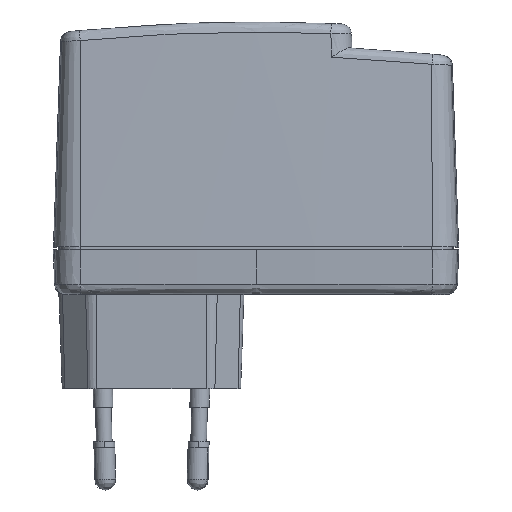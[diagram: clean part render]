
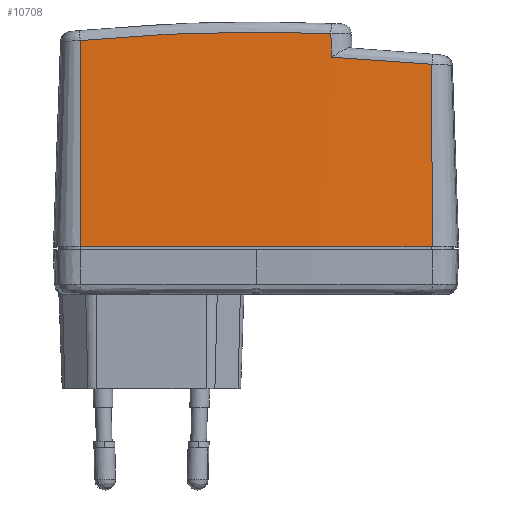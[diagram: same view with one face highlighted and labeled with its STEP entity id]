
A CAD part, top view. The second image highlights one B-rep face of the part: STEP entity #10708.
In plain terms, the highlighted conical face has half-angle 2 degrees and reference radius 1132.74 mm.
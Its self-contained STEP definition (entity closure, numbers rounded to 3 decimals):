
#135 = B_SPLINE_CURVE_WITH_KNOTS ( 'NONE', 3,
 ( #11519, #1693, #8661, #2425 ),
 .UNSPECIFIED., .F., .F.,
 ( 4, 4 ),
 ( 0., 1. ),
 .UNSPECIFIED. ) ;
#694 = DIRECTION ( 'NONE',  ( 0.001, -0.999, 0.035 ) ) ;
#872 = CARTESIAN_POINT ( 'NONE',  ( 33.616, 34.923, 16.281 ) ) ;
#1139 = VECTOR ( 'NONE', #7581, 1000. ) ;
#1210 = EDGE_CURVE ( 'NONE', #10408, #12705, #5740, .T. ) ;
#1338 = VECTOR ( 'NONE', #694, 1000. ) ;
#1452 = CONICAL_SURFACE ( 'NONE', #8878, 1132.735, 0.035 ) ;
#1693 = CARTESIAN_POINT ( 'NONE',  ( 27.241, 35.549, 16.449 ) ) ;
#1721 = CARTESIAN_POINT ( 'NONE',  ( 33.652, 0., 17.5 ) ) ;
#1848 = EDGE_CURVE ( 'NONE', #7943, #5614, #9613, .T. ) ;
#2425 = CARTESIAN_POINT ( 'NONE',  ( 14.454, 36.266, 16.641 ) ) ;
#3015 = ORIENTED_EDGE ( 'NONE', *, *, #1210, .F. ) ;
#3669 = CARTESIAN_POINT ( 'NONE',  ( 14.296, 40.776, 16.486 ) ) ;
#3963 = CARTESIAN_POINT ( 'NONE',  ( -33.611, 39.445, 16.123 ) ) ;
#4095 = CARTESIAN_POINT ( 'NONE',  ( 0., 41.07, 16.566 ) ) ;
#4700 = ORIENTED_EDGE ( 'NONE', *, *, #9474, .T. ) ;
#4976 = CARTESIAN_POINT ( 'NONE',  ( 14.296, 40.776, 16.486 ) ) ;
#5168 = CARTESIAN_POINT ( 'NONE',  ( 14.454, 36.266, 16.641 ) ) ;
#5374 = ORIENTED_EDGE ( 'NONE', *, *, #6502, .T. ) ;
#5556 = EDGE_LOOP ( 'NONE', ( #4700, #12411, #5374, #5896, #5945, #9532, #3015 ) ) ;
#5614 = VERTEX_POINT ( 'NONE', #8344 ) ;
#5740 = LINE ( 'NONE', #10768, #1338 ) ;
#5796 = EDGE_CURVE ( 'NONE', #5614, #12705, #12611, .T. ) ;
#5896 = ORIENTED_EDGE ( 'NONE', *, *, #10690, .T. ) ;
#5945 = ORIENTED_EDGE ( 'NONE', *, *, #1848, .T. ) ;
#6074 = CARTESIAN_POINT ( 'NONE',  ( -11.229, 41.07, 16.566 ) ) ;
#6169 = CARTESIAN_POINT ( 'NONE',  ( 4.767, 41.07, 16.566 ) ) ;
#6502 = EDGE_CURVE ( 'NONE', #11270, #8301, #7196, .T. ) ;
#6607 = B_SPLINE_CURVE_WITH_KNOTS ( 'NONE', 3,
 ( #4095, #6074, #13106, #3963 ),
 .UNSPECIFIED., .F., .F.,
 ( 4, 4 ),
 ( 0., 1. ),
 .UNSPECIFIED. ) ;
#6619 = CARTESIAN_POINT ( 'NONE',  ( 0., 41.07, 16.566 ) ) ;
#7027 = DIRECTION ( 'NONE',  ( 0., -1., 0. ) ) ;
#7135 = EDGE_CURVE ( 'NONE', #7695, #11270, #11741, .T. ) ;
#7196 = B_SPLINE_CURVE_WITH_KNOTS ( 'NONE', 3,
 ( #4976, #12064, #6169, #12197 ),
 .UNSPECIFIED., .F., .F.,
 ( 4, 4 ),
 ( 0., 1. ),
 .UNSPECIFIED. ) ;
#7336 = CARTESIAN_POINT ( 'NONE',  ( 0., 0., -1114.735 ) ) ;
#7520 = DIRECTION ( 'NONE',  ( 0., 0., -1. ) ) ;
#7581 = DIRECTION ( 'NONE',  ( -0.001, -0.999, 0.035 ) ) ;
#7604 = CARTESIAN_POINT ( 'NONE',  ( 14.401, 37.769, 16.589 ) ) ;
#7695 = VERTEX_POINT ( 'NONE', #5168 ) ;
#7736 = CARTESIAN_POINT ( 'NONE',  ( 14.454, 36.266, 16.641 ) ) ;
#7943 = VERTEX_POINT ( 'NONE', #12925 ) ;
#8301 = VERTEX_POINT ( 'NONE', #6619 ) ;
#8344 = CARTESIAN_POINT ( 'NONE',  ( -33.652, 0., 17.5 ) ) ;
#8661 = CARTESIAN_POINT ( 'NONE',  ( 20.854, 35.997, 16.569 ) ) ;
#8878 = AXIS2_PLACEMENT_3D ( 'NONE', #8988, #7027, #12041 ) ;
#8988 = CARTESIAN_POINT ( 'NONE',  ( 0., 0., -1114.735 ) ) ;
#9474 = EDGE_CURVE ( 'NONE', #10408, #7695, #135, .T. ) ;
#9532 = ORIENTED_EDGE ( 'NONE', *, *, #5796, .T. ) ;
#9613 = LINE ( 'NONE', #10823, #1139 ) ;
#9704 = CARTESIAN_POINT ( 'NONE',  ( 14.348, 39.273, 16.538 ) ) ;
#9776 = CARTESIAN_POINT ( 'NONE',  ( 14.296, 40.776, 16.486 ) ) ;
#10277 = AXIS2_PLACEMENT_3D ( 'NONE', #7336, #11355, #7520 ) ;
#10408 = VERTEX_POINT ( 'NONE', #872 ) ;
#10690 = EDGE_CURVE ( 'NONE', #8301, #7943, #6607, .T. ) ;
#10708 = ADVANCED_FACE ( 'NONE', ( #11118 ), #1452, .T. ) ;
#10768 = CARTESIAN_POINT ( 'NONE',  ( 551.345, -499000., 17435.272 ) ) ;
#10823 = CARTESIAN_POINT ( 'NONE',  ( -33.652, 0., 17.5 ) ) ;
#11118 = FACE_OUTER_BOUND ( 'NONE', #5556, .T. ) ;
#11270 = VERTEX_POINT ( 'NONE', #3669 ) ;
#11355 = DIRECTION ( 'NONE',  ( 0., 1., 0. ) ) ;
#11519 = CARTESIAN_POINT ( 'NONE',  ( 33.616, 34.923, 16.281 ) ) ;
#11741 = B_SPLINE_CURVE_WITH_KNOTS ( 'NONE', 3,
 ( #7736, #7604, #9704, #9776 ),
 .UNSPECIFIED., .F., .F.,
 ( 4, 4 ),
 ( 0., 1. ),
 .UNSPECIFIED. ) ;
#12041 = DIRECTION ( 'NONE',  ( 0., 0., -1. ) ) ;
#12064 = CARTESIAN_POINT ( 'NONE',  ( 9.533, 40.972, 16.539 ) ) ;
#12197 = CARTESIAN_POINT ( 'NONE',  ( 0., 41.07, 16.566 ) ) ;
#12411 = ORIENTED_EDGE ( 'NONE', *, *, #7135, .T. ) ;
#12611 = CIRCLE ( 'NONE', #10277, 1132.735 ) ;
#12705 = VERTEX_POINT ( 'NONE', #1721 ) ;
#12925 = CARTESIAN_POINT ( 'NONE',  ( -33.611, 39.445, 16.123 ) ) ;
#13106 = CARTESIAN_POINT ( 'NONE',  ( -22.434, 40.528, 16.418 ) ) ;
